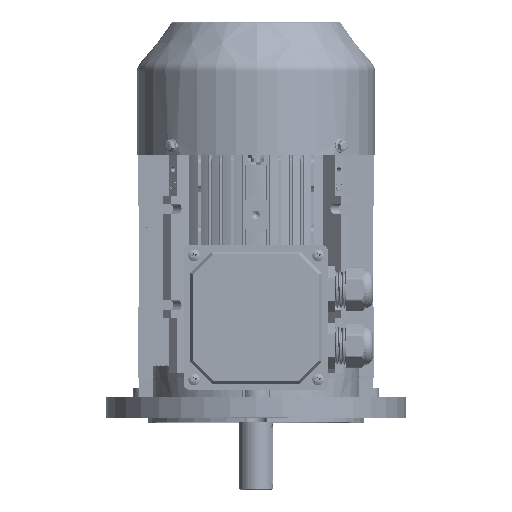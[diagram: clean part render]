
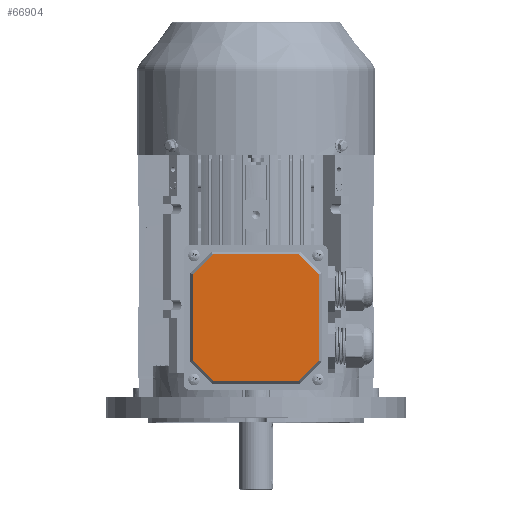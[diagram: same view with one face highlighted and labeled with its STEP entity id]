
A CAD part, top view. The second image highlights one B-rep face of the part: STEP entity #66904.
In plain terms, the highlighted planar face has unit normal (0, 0, 1) as drawn and (0, 0, -1) by its records, which use the part's own axes.
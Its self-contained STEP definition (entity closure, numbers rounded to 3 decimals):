
#1499 = DIRECTION ( 'NONE',  ( 0.707, -0.707, 0. ) ) ;
#2790 = ORIENTED_EDGE ( 'NONE', *, *, #48143, .F. ) ;
#4711 = VERTEX_POINT ( 'NONE', #20733 ) ;
#7547 = DIRECTION ( 'NONE',  ( 0., 1., 0. ) ) ;
#10049 = DIRECTION ( 'NONE',  ( 1., 0., 0. ) ) ;
#15559 = ORIENTED_EDGE ( 'NONE', *, *, #69655, .F. ) ;
#16275 = VECTOR ( 'NONE', #80974, 1000. ) ;
#17272 = VERTEX_POINT ( 'NONE', #123212 ) ;
#17571 = VERTEX_POINT ( 'NONE', #118594 ) ;
#18686 = VERTEX_POINT ( 'NONE', #50202 ) ;
#20601 = CARTESIAN_POINT ( 'NONE',  ( -44.22, -44.22, -4. ) ) ;
#20733 = CARTESIAN_POINT ( 'NONE',  ( 35.903, -52.536, -4. ) ) ;
#21257 = LINE ( 'NONE', #121614, #94058 ) ;
#21400 = ORIENTED_EDGE ( 'NONE', *, *, #50814, .F. ) ;
#22355 = VECTOR ( 'NONE', #80107, 1000. ) ;
#23193 = CARTESIAN_POINT ( 'NONE',  ( 44.22, -44.22, -4. ) ) ;
#24071 = CARTESIAN_POINT ( 'NONE',  ( 44.22, 44.22, -4. ) ) ;
#25341 = LINE ( 'NONE', #23193, #22355 ) ;
#30458 = CARTESIAN_POINT ( 'NONE',  ( -52.536, -35.903, -4. ) ) ;
#31025 = ORIENTED_EDGE ( 'NONE', *, *, #67687, .F. ) ;
#37092 = VECTOR ( 'NONE', #7547, 1000. ) ;
#37187 = EDGE_CURVE ( 'NONE', #17272, #4711, #52346, .T. ) ;
#38705 = CARTESIAN_POINT ( 'NONE',  ( 0., -52.536, -4. ) ) ;
#39486 = VERTEX_POINT ( 'NONE', #62365 ) ;
#40805 = VERTEX_POINT ( 'NONE', #30458 ) ;
#41103 = CARTESIAN_POINT ( 'NONE',  ( 0., 0., -4. ) ) ;
#43299 = LINE ( 'NONE', #57874, #116074 ) ;
#45631 = DIRECTION ( 'NONE',  ( -0.707, -0.707, 0. ) ) ;
#48143 = EDGE_CURVE ( 'NONE', #39486, #90337, #21257, .T. ) ;
#50202 = CARTESIAN_POINT ( 'NONE',  ( 35.903, 52.536, -4. ) ) ;
#50664 = DIRECTION ( 'NONE',  ( 1., 0., 0. ) ) ;
#50814 = EDGE_CURVE ( 'NONE', #4711, #17571, #25341, .T. ) ;
#52346 = LINE ( 'NONE', #38705, #68633 ) ;
#52868 = EDGE_CURVE ( 'NONE', #40805, #17272, #66671, .T. ) ;
#57874 = CARTESIAN_POINT ( 'NONE',  ( -52.536, 0., -4. ) ) ;
#58883 = AXIS2_PLACEMENT_3D ( 'NONE', #41103, #107534, #50664 ) ;
#59697 = ORIENTED_EDGE ( 'NONE', *, *, #52868, .F. ) ;
#61909 = LINE ( 'NONE', #82162, #109474 ) ;
#62365 = CARTESIAN_POINT ( 'NONE',  ( -35.903, 52.536, -4. ) ) ;
#66671 = LINE ( 'NONE', #20601, #91938 ) ;
#66771 = LINE ( 'NONE', #24071, #16275 ) ;
#66904 = ADVANCED_FACE ( 'NONE', ( #120718 ), #88415, .F. ) ;
#67687 = EDGE_CURVE ( 'NONE', #90337, #40805, #43299, .T. ) ;
#68633 = VECTOR ( 'NONE', #10049, 1000. ) ;
#69655 = EDGE_CURVE ( 'NONE', #17571, #115731, #90580, .T. ) ;
#70561 = ORIENTED_EDGE ( 'NONE', *, *, #37187, .F. ) ;
#73975 = CARTESIAN_POINT ( 'NONE',  ( 52.536, 0., -4. ) ) ;
#80107 = DIRECTION ( 'NONE',  ( 0.707, 0.707, 0. ) ) ;
#80974 = DIRECTION ( 'NONE',  ( -0.707, 0.707, 0. ) ) ;
#82162 = CARTESIAN_POINT ( 'NONE',  ( 0., 52.536, -4. ) ) ;
#86500 = DIRECTION ( 'NONE',  ( 0., -1., 0. ) ) ;
#88415 = PLANE ( 'NONE',  #58883 ) ;
#90337 = VERTEX_POINT ( 'NONE', #120179 ) ;
#90580 = LINE ( 'NONE', #73975, #37092 ) ;
#91938 = VECTOR ( 'NONE', #1499, 1000. ) ;
#94058 = VECTOR ( 'NONE', #45631, 1000. ) ;
#95446 = ORIENTED_EDGE ( 'NONE', *, *, #97526, .F. ) ;
#97526 = EDGE_CURVE ( 'NONE', #115731, #18686, #66771, .T. ) ;
#99399 = EDGE_CURVE ( 'NONE', #18686, #39486, #61909, .T. ) ;
#100842 = DIRECTION ( 'NONE',  ( -1., 0., 0. ) ) ;
#100870 = ORIENTED_EDGE ( 'NONE', *, *, #99399, .F. ) ;
#101656 = EDGE_LOOP ( 'NONE', ( #15559, #21400, #70561, #59697, #31025, #2790, #100870, #95446 ) ) ;
#102936 = CARTESIAN_POINT ( 'NONE',  ( 52.536, 35.903, -4. ) ) ;
#107534 = DIRECTION ( 'NONE',  ( 0., 0., 1. ) ) ;
#109474 = VECTOR ( 'NONE', #100842, 1000. ) ;
#115731 = VERTEX_POINT ( 'NONE', #102936 ) ;
#116074 = VECTOR ( 'NONE', #86500, 1000. ) ;
#118594 = CARTESIAN_POINT ( 'NONE',  ( 52.536, -35.903, -4. ) ) ;
#120179 = CARTESIAN_POINT ( 'NONE',  ( -52.536, 35.903, -4. ) ) ;
#120718 = FACE_OUTER_BOUND ( 'NONE', #101656, .T. ) ;
#121614 = CARTESIAN_POINT ( 'NONE',  ( -44.22, 44.22, -4. ) ) ;
#123212 = CARTESIAN_POINT ( 'NONE',  ( -35.903, -52.536, -4. ) ) ;
